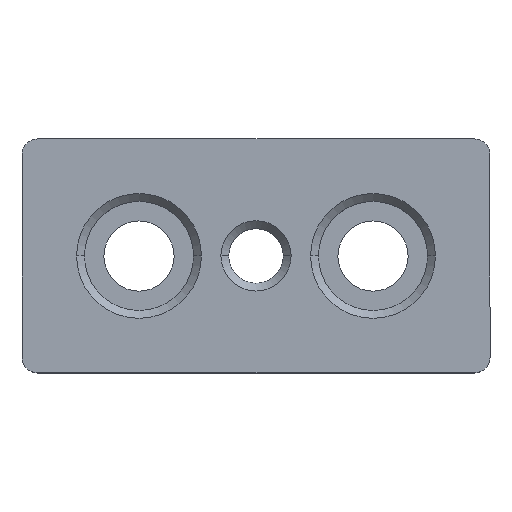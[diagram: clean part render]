
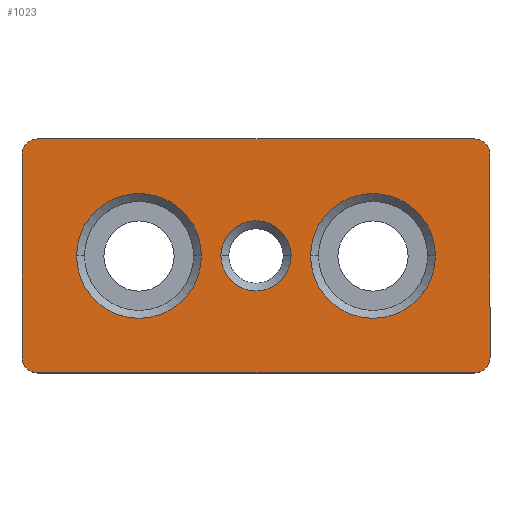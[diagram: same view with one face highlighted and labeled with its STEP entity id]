
A CAD part, top view. The second image highlights one B-rep face of the part: STEP entity #1023.
In plain terms, the highlighted planar face has unit normal (0, 0, 1).
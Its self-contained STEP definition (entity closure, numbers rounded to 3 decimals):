
#1 = EDGE_CURVE ( 'NONE', #133, #535, #797, .T. ) ;
#4 = VECTOR ( 'NONE', #199, 1000. ) ;
#8 = DIRECTION ( 'NONE',  ( 1., 0., 0. ) ) ;
#32 = CIRCLE ( 'NONE', #913, 8. ) ;
#35 = DIRECTION ( 'NONE',  ( 0., 0., 1. ) ) ;
#42 = CARTESIAN_POINT ( 'NONE',  ( 9.661, -12.742, 12. ) ) ;
#50 = ORIENTED_EDGE ( 'NONE', *, *, #744, .T. ) ;
#55 = ORIENTED_EDGE ( 'NONE', *, *, #514, .T. ) ;
#62 = DIRECTION ( 'NONE',  ( 1., 0., 0. ) ) ;
#64 = DIRECTION ( 'NONE',  ( 1., 0., 0. ) ) ;
#87 = VECTOR ( 'NONE', #203, 1000. ) ;
#88 = VERTEX_POINT ( 'NONE', #360 ) ;
#92 = ORIENTED_EDGE ( 'NONE', *, *, #1002, .T. ) ;
#106 = CIRCLE ( 'NONE', #526, 4.5 ) ;
#112 = EDGE_CURVE ( 'NONE', #837, #787, #931, .T. ) ;
#121 = CARTESIAN_POINT ( 'NONE',  ( -22.839, 2.258, 12. ) ) ;
#125 = AXIS2_PLACEMENT_3D ( 'NONE', #1039, #552, #64 ) ;
#130 = CARTESIAN_POINT ( 'NONE',  ( 5.161, -12.742, 12. ) ) ;
#131 = EDGE_CURVE ( 'NONE', #376, #142, #469, .T. ) ;
#133 = VERTEX_POINT ( 'NONE', #702 ) ;
#135 = EDGE_CURVE ( 'NONE', #437, #553, #277, .T. ) ;
#141 = AXIS2_PLACEMENT_3D ( 'NONE', #857, #361, #930 ) ;
#142 = VERTEX_POINT ( 'NONE', #121 ) ;
#150 = CARTESIAN_POINT ( 'NONE',  ( 0., 0., 12. ) ) ;
#152 = CARTESIAN_POINT ( 'NONE',  ( -1.839, -12.742, 12. ) ) ;
#153 = ORIENTED_EDGE ( 'NONE', *, *, #936, .T. ) ;
#155 = ORIENTED_EDGE ( 'NONE', *, *, #759, .T. ) ;
#158 = CARTESIAN_POINT ( 'NONE',  ( 0.661, -12.742, 12. ) ) ;
#162 = ORIENTED_EDGE ( 'NONE', *, *, #1, .T. ) ;
#177 = CIRCLE ( 'NONE', #125, 2. ) ;
#190 = CARTESIAN_POINT ( 'NONE',  ( -9.839, -12.742, 12. ) ) ;
#192 = VERTEX_POINT ( 'NONE', #158 ) ;
#199 = DIRECTION ( 'NONE',  ( 1., 0., 0. ) ) ;
#201 = CIRCLE ( 'NONE', #824, 8. ) ;
#203 = DIRECTION ( 'NONE',  ( -1., 0., 0. ) ) ;
#210 = DIRECTION ( 'NONE',  ( 1., 0., 0. ) ) ;
#213 = AXIS2_PLACEMENT_3D ( 'NONE', #425, #997, #506 ) ;
#224 = CIRCLE ( 'NONE', #713, 2. ) ;
#234 = DIRECTION ( 'NONE',  ( 0., 0., 1. ) ) ;
#249 = CARTESIAN_POINT ( 'NONE',  ( -24.839, 2.258, 12. ) ) ;
#256 = EDGE_CURVE ( 'NONE', #331, #192, #370, .T. ) ;
#277 = CIRCLE ( 'NONE', #605, 8. ) ;
#287 = EDGE_LOOP ( 'NONE', ( #893, #92 ) ) ;
#298 = DIRECTION ( 'NONE',  ( 1., 0., 0. ) ) ;
#331 = VERTEX_POINT ( 'NONE', #42 ) ;
#336 = CARTESIAN_POINT ( 'NONE',  ( 35.161, 2.258, 12. ) ) ;
#340 = FACE_BOUND ( 'NONE', #1030, .T. ) ;
#353 = EDGE_CURVE ( 'NONE', #192, #331, #106, .T. ) ;
#360 = CARTESIAN_POINT ( 'NONE',  ( -22.839, -27.742, 12. ) ) ;
#361 = DIRECTION ( 'NONE',  ( 0., 0., -1. ) ) ;
#370 = CIRCLE ( 'NONE', #141, 4.5 ) ;
#376 = VERTEX_POINT ( 'NONE', #1025 ) ;
#381 = AXIS2_PLACEMENT_3D ( 'NONE', #934, #446, #1013 ) ;
#385 = DIRECTION ( 'NONE',  ( 0., 0., -1. ) ) ;
#404 = VERTEX_POINT ( 'NONE', #534 ) ;
#419 = DIRECTION ( 'NONE',  ( 0., 1., 0. ) ) ;
#425 = CARTESIAN_POINT ( 'NONE',  ( 20.161, -12.742, 12. ) ) ;
#437 = VERTEX_POINT ( 'NONE', #950 ) ;
#443 = EDGE_CURVE ( 'NONE', #553, #437, #32, .T. ) ;
#446 = DIRECTION ( 'NONE',  ( 0., 0., 1. ) ) ;
#465 = LINE ( 'NONE', #696, #4 ) ;
#467 = CARTESIAN_POINT ( 'NONE',  ( 12.161, -12.742, 12. ) ) ;
#469 = LINE ( 'NONE', #617, #87 ) ;
#470 = ORIENTED_EDGE ( 'NONE', *, *, #443, .T. ) ;
#477 = VERTEX_POINT ( 'NONE', #467 ) ;
#500 = DIRECTION ( 'NONE',  ( 0., 0., 1. ) ) ;
#503 = CARTESIAN_POINT ( 'NONE',  ( 35.161, -25.742, 12. ) ) ;
#506 = DIRECTION ( 'NONE',  ( 1., 0., 0. ) ) ;
#507 = EDGE_LOOP ( 'NONE', ( #1033, #544 ) ) ;
#514 = EDGE_CURVE ( 'NONE', #915, #376, #177, .T. ) ;
#526 = AXIS2_PLACEMENT_3D ( 'NONE', #130, #709, #210 ) ;
#527 = CARTESIAN_POINT ( 'NONE',  ( -22.839, -25.742, 12. ) ) ;
#534 = CARTESIAN_POINT ( 'NONE',  ( 28.161, -12.742, 12. ) ) ;
#535 = VERTEX_POINT ( 'NONE', #810 ) ;
#544 = ORIENTED_EDGE ( 'NONE', *, *, #353, .T. ) ;
#549 = DIRECTION ( 'NONE',  ( 0., 0., -1. ) ) ;
#552 = DIRECTION ( 'NONE',  ( 0., 0., 1. ) ) ;
#553 = VERTEX_POINT ( 'NONE', #152 ) ;
#554 = FACE_OUTER_BOUND ( 'NONE', #622, .T. ) ;
#555 = PLANE ( 'NONE',  #745 ) ;
#572 = VECTOR ( 'NONE', #419, 1000. ) ;
#577 = VECTOR ( 'NONE', #829, 1000. ) ;
#605 = AXIS2_PLACEMENT_3D ( 'NONE', #190, #875, #298 ) ;
#615 = DIRECTION ( 'NONE',  ( 1., 0., 0. ) ) ;
#617 = CARTESIAN_POINT ( 'NONE',  ( -24.839, 2.258, 12. ) ) ;
#622 = EDGE_LOOP ( 'NONE', ( #155, #55, #740, #50, #162, #650, #153, #678 ) ) ;
#650 = ORIENTED_EDGE ( 'NONE', *, *, #954, .T. ) ;
#678 = ORIENTED_EDGE ( 'NONE', *, *, #112, .T. ) ;
#687 = CARTESIAN_POINT ( 'NONE',  ( 35.161, 0.258, 12. ) ) ;
#696 = CARTESIAN_POINT ( 'NONE',  ( -24.839, -27.742, 12. ) ) ;
#702 = CARTESIAN_POINT ( 'NONE',  ( -24.839, 0.258, 12. ) ) ;
#709 = DIRECTION ( 'NONE',  ( 0., 0., -1. ) ) ;
#713 = AXIS2_PLACEMENT_3D ( 'NONE', #527, #35, #615 ) ;
#740 = ORIENTED_EDGE ( 'NONE', *, *, #131, .T. ) ;
#744 = EDGE_CURVE ( 'NONE', #142, #133, #845, .T. ) ;
#745 = AXIS2_PLACEMENT_3D ( 'NONE', #150, #234, #812 ) ;
#759 = EDGE_CURVE ( 'NONE', #787, #915, #796, .T. ) ;
#787 = VERTEX_POINT ( 'NONE', #503 ) ;
#796 = LINE ( 'NONE', #336, #572 ) ;
#797 = LINE ( 'NONE', #249, #577 ) ;
#798 = EDGE_CURVE ( 'NONE', #404, #477, #951, .T. ) ;
#807 = FACE_BOUND ( 'NONE', #507, .T. ) ;
#810 = CARTESIAN_POINT ( 'NONE',  ( -24.839, -25.742, 12. ) ) ;
#812 = DIRECTION ( 'NONE',  ( 1., 0., 0. ) ) ;
#824 = AXIS2_PLACEMENT_3D ( 'NONE', #1037, #549, #62 ) ;
#829 = DIRECTION ( 'NONE',  ( 0., -1., 0. ) ) ;
#837 = VERTEX_POINT ( 'NONE', #917 ) ;
#845 = CIRCLE ( 'NONE', #1048, 2. ) ;
#857 = CARTESIAN_POINT ( 'NONE',  ( 5.161, -12.742, 12. ) ) ;
#875 = DIRECTION ( 'NONE',  ( 0., 0., -1. ) ) ;
#876 = CARTESIAN_POINT ( 'NONE',  ( -9.839, -12.742, 12. ) ) ;
#893 = ORIENTED_EDGE ( 'NONE', *, *, #798, .T. ) ;
#913 = AXIS2_PLACEMENT_3D ( 'NONE', #876, #385, #953 ) ;
#915 = VERTEX_POINT ( 'NONE', #687 ) ;
#917 = CARTESIAN_POINT ( 'NONE',  ( 33.161, -27.742, 12. ) ) ;
#930 = DIRECTION ( 'NONE',  ( 1., 0., 0. ) ) ;
#931 = CIRCLE ( 'NONE', #381, 2. ) ;
#934 = CARTESIAN_POINT ( 'NONE',  ( 33.161, -25.742, 12. ) ) ;
#936 = EDGE_CURVE ( 'NONE', #88, #837, #465, .T. ) ;
#950 = CARTESIAN_POINT ( 'NONE',  ( -17.839, -12.742, 12. ) ) ;
#951 = CIRCLE ( 'NONE', #213, 8. ) ;
#953 = DIRECTION ( 'NONE',  ( 1., 0., 0. ) ) ;
#954 = EDGE_CURVE ( 'NONE', #535, #88, #224, .T. ) ;
#988 = ORIENTED_EDGE ( 'NONE', *, *, #135, .T. ) ;
#989 = CARTESIAN_POINT ( 'NONE',  ( -22.839, 0.258, 12. ) ) ;
#997 = DIRECTION ( 'NONE',  ( 0., 0., -1. ) ) ;
#1002 = EDGE_CURVE ( 'NONE', #477, #404, #201, .T. ) ;
#1013 = DIRECTION ( 'NONE',  ( 1., 0., 0. ) ) ;
#1015 = FACE_BOUND ( 'NONE', #287, .T. ) ;
#1023 = ADVANCED_FACE ( 'NONE', ( #1015, #340, #807, #554 ), #555, .T. ) ;
#1025 = CARTESIAN_POINT ( 'NONE',  ( 33.161, 2.258, 12. ) ) ;
#1030 = EDGE_LOOP ( 'NONE', ( #470, #988 ) ) ;
#1033 = ORIENTED_EDGE ( 'NONE', *, *, #256, .T. ) ;
#1037 = CARTESIAN_POINT ( 'NONE',  ( 20.161, -12.742, 12. ) ) ;
#1039 = CARTESIAN_POINT ( 'NONE',  ( 33.161, 0.258, 12. ) ) ;
#1048 = AXIS2_PLACEMENT_3D ( 'NONE', #989, #500, #8 ) ;
